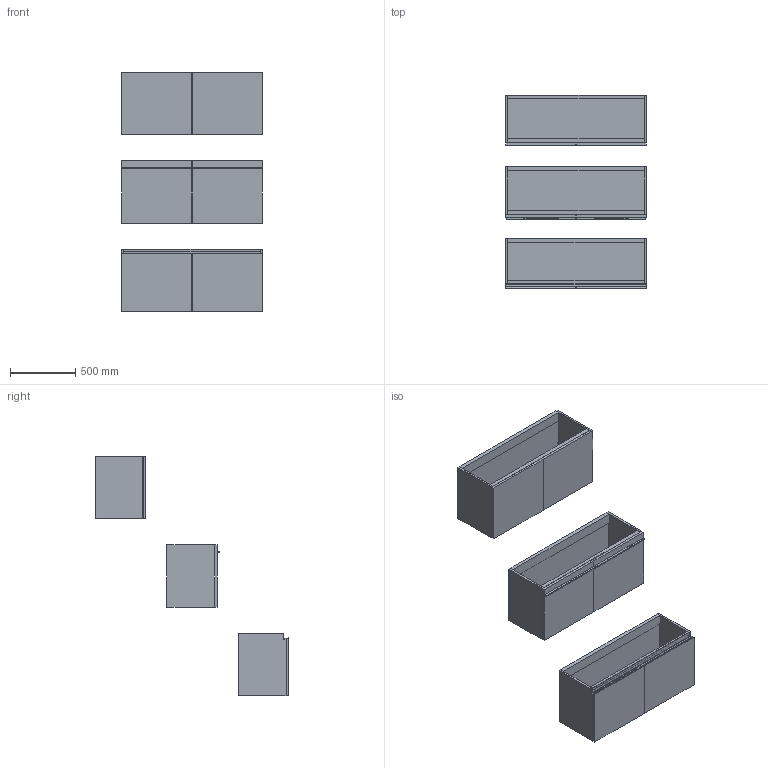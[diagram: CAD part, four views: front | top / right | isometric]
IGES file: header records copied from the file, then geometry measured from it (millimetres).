
Start section: Data from Parasolid IGES Translator 19.0.9, Copyright(c) 2006 Siemens PL M Software. All Rights Reserved.
Global section: file name: noorth-SI-H 48 D 38,8 W 108_8400.igs; native system: By Siemens PLM Incorporated; preprocessor: XPlus GENERIC/IGES 19.0.9; author: Noname; organization: Noname; date: 20200601.102140; units: metre
Bounding box: 1080 x 1485.1 x 1840.01 mm (x, y, z)
Volume: 77097269.1 mm3; surface area: 11947921.2 mm2
Topology: 27 solids, 27 shells, 264 faces, 566 edges, 336 vertices
Faces by surface type: plane 180, extrusion 32, bspline 32, cylinder 20
